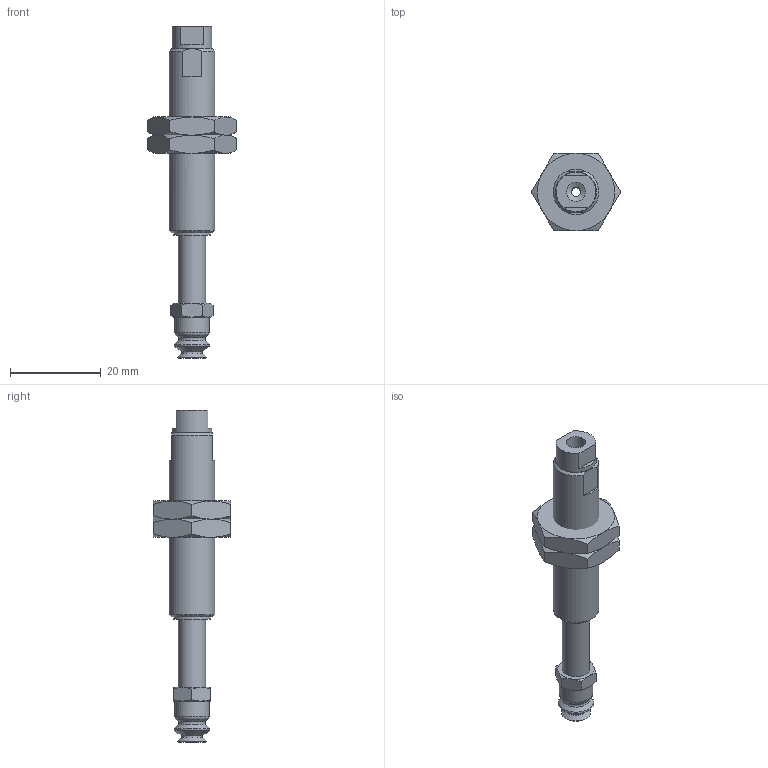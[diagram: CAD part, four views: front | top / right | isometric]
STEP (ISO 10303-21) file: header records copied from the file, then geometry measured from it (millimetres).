
FILE_DESCRIPTION(('STEP AP203'),'1');
FILE_NAME('-LB.stp','2025-10-10T05:52:08',(' '),(' '),'Spatial InterOp 3D',' ',' ');
FILE_SCHEMA(('CONFIG_CONTROL_DESIGN'));
Length unit declared in the file: millimetre
Products named in the file (7): BNABPJTH-6-15-※-LB; NUT; __; BODY; BPJG-6-_; PS-6-J-M- body
Assembly tree (6 placements, depth 2):
  BNABPJTH-6-15-※-LB
    NUT
    NUT
    __
    BODY
    BPJG-6-_
    PS-6-J-M- body
Bounding box: 19.63 x 17 x 73 mm (x, y, z)
Volume: 5502.1 mm3; surface area: 4585.7 mm2
Topology: 6 solids, 6 shells, 120 faces, 256 edges, 153 vertices
Faces by surface type: cone 50, plane 43, cylinder 17, torus 10
Full cylindrical faces by diameter (mm): 2 x2, 3.64 x1, 4 x2, 4.2 x2, 5 x1, 6 x3, 7.5 x1, 8 x1, 8.7 x1, 9 x2, 10 x1
Entity records: 3368 total; most frequent: CARTESIAN_POINT 729, DIRECTION 480, ORIENTED_EDGE 410, AXIS2_PLACEMENT_3D 224, EDGE_CURVE 205, EDGE_LOOP 176, FACE_OUTER_BOUND 147, VERTEX_POINT 141
